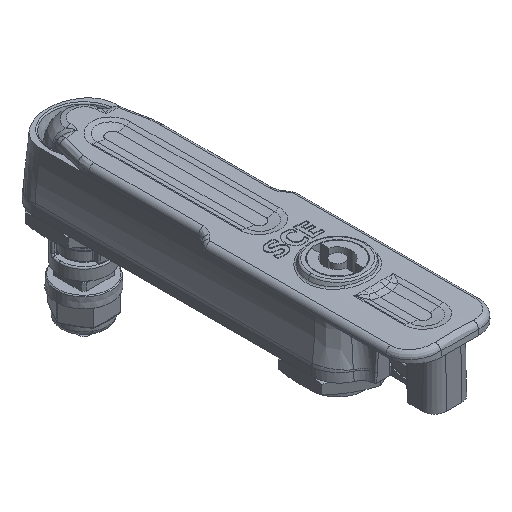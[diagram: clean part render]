
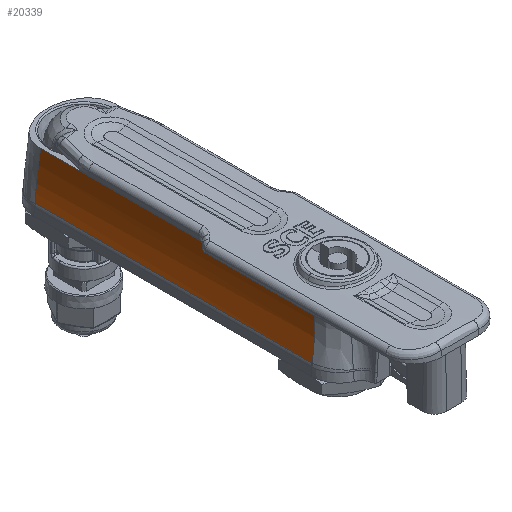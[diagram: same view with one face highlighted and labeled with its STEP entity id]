
A CAD part, isometric view. The second image highlights one B-rep face of the part: STEP entity #20339.
In plain terms, the highlighted cylindrical face has radius 59.05 mm (diameter 118.1 mm), a partial arc.
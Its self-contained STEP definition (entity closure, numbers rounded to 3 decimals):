
#3954=CARTESIAN_POINT('',(-13.75,-51.21,
20.));
#4088=CARTESIAN_POINT('',(-13.75,47.952,20.));
#4089=CARTESIAN_POINT('',(-13.75,48.123,18.674));
#4090=CARTESIAN_POINT('',(-13.84,48.385,15.981));
#4091=CARTESIAN_POINT('',(-14.189,48.52,12.58));
#4092=CARTESIAN_POINT('',(-14.616,48.47,9.854));
#4093=CARTESIAN_POINT('',(-15.005,48.335,7.832));
#4094=CARTESIAN_POINT('',(-15.455,48.078,5.868));
#4095=CARTESIAN_POINT('',(-15.794,47.8,4.586));
#4096=CARTESIAN_POINT('',(-15.968,47.628,3.968));
#4101=DIRECTION('',(0.,1.,0.));
#4102=VECTOR('',#4101,99.163);
#4103=CARTESIAN_POINT('',(-13.75,-51.21,
20.));
#4104=LINE('',#4103,#4102);
#4108=CARTESIAN_POINT('',(-15.967,-52.852,
3.972));
#4109=CARTESIAN_POINT('',(-14.498,-52.319,
9.18));
#4110=CARTESIAN_POINT('',(-13.75,-51.764,
14.589));
#4111=CARTESIAN_POINT('',(-13.75,-51.21,
20.));
#4116=CARTESIAN_POINT('',(-15.968,-52.749,
3.968));
#4117=CARTESIAN_POINT('',(-15.968,-52.783,
3.968));
#4118=CARTESIAN_POINT('',(-15.968,-52.818,
3.969));
#4119=CARTESIAN_POINT('',(-15.967,-52.852,
3.972));
#4131=DIRECTION('',(0.,1.,0.));
#4132=VECTOR('',#4131,100.376);
#4133=CARTESIAN_POINT('',(-15.968,-52.749,
3.968));
#4134=LINE('',#4133,#4132);
#4141=CARTESIAN_POINT('',(-15.967,-52.852,
3.972));
#18371=VERTEX_POINT('',#4141);
#18457=CARTESIAN_POINT('',(-15.968,47.628,
3.968));
#18459=VERTEX_POINT('',#18457);
#19124=VERTEX_POINT('',#3954);
#19340=VERTEX_POINT('',#4116);
#19413=VERTEX_POINT('',#4088);
#20324=CARTESIAN_POINT('',(-72.8,-63.,20.));
#20325=DIRECTION('',(0.,1.,0.));
#20326=DIRECTION('',(0.,0.,1.));
#20327=AXIS2_PLACEMENT_3D('',#20324,#20325,#20326);
#20328=CYLINDRICAL_SURFACE('',#20327,59.05);
#20330=ORIENTED_EDGE('',*,*,#20329,.T.);
#20332=ORIENTED_EDGE('',*,*,#20331,.F.);
#20333=ORIENTED_EDGE('',*,*,#20244,.F.);
#20334=ORIENTED_EDGE('',*,*,#20172,.F.);
#20336=ORIENTED_EDGE('',*,*,#20335,.F.);
#20337=EDGE_LOOP('',(#20330,#20332,#20333,#20334,#20336));
#20338=FACE_OUTER_BOUND('',#20337,.F.);
#4097=B_SPLINE_CURVE_WITH_KNOTS('',3,(#4088,#4089,#4090,#4091,#4092,#4093,#4094,
#4095,#4096),.UNSPECIFIED.,.F.,.F.,(4,1,1,1,1,1,4),(0.,0.247,
0.5,0.626,0.753,0.879,1.),
.UNSPECIFIED.);
#4112=B_SPLINE_CURVE_WITH_KNOTS('',3,(#4108,#4109,#4110,#4111),.UNSPECIFIED.,
.F.,.F.,(4,4),(0.,1.),.UNSPECIFIED.);
#4120=B_SPLINE_CURVE_WITH_KNOTS('',3,(#4116,#4117,#4118,#4119),.UNSPECIFIED.,
.F.,.F.,(4,4),(0.,1.),.UNSPECIFIED.);
#20172=EDGE_CURVE('',#18371,#19124,#4112,.T.);
#20244=EDGE_CURVE('',#19124,#19413,#4104,.T.);
#20329=EDGE_CURVE('',#19340,#18459,#4134,.T.);
#20331=EDGE_CURVE('',#19413,#18459,#4097,.T.);
#20335=EDGE_CURVE('',#19340,#18371,#4120,.T.);
#20339=ADVANCED_FACE('',(#20338),#20328,.F.);
